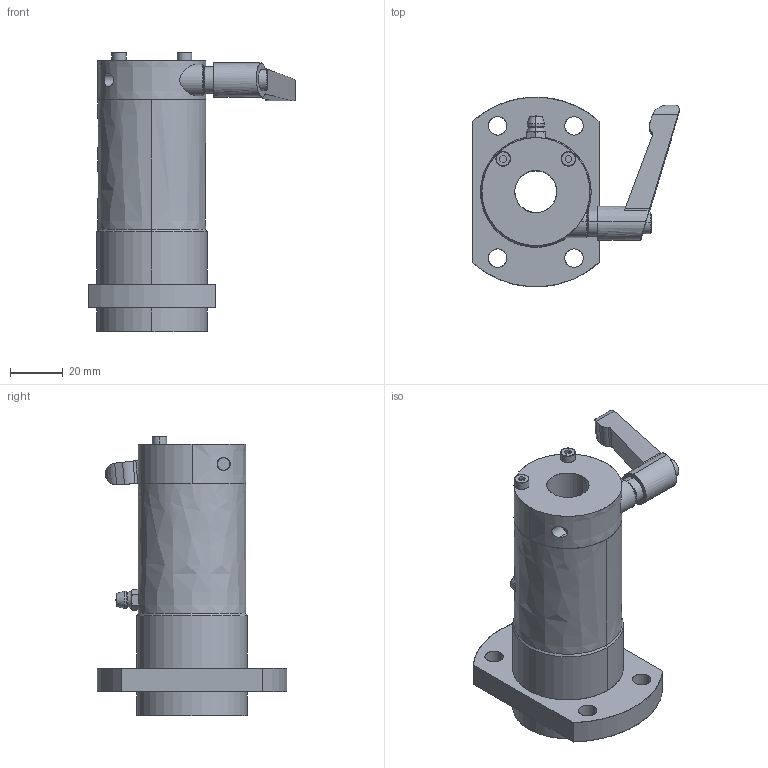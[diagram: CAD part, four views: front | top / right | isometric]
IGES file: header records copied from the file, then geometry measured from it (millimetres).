
Start section: SolidWorks IGES file using analytic representation for surfaces
Global section: file name: C:\Users\yamad\Desktop\IGES\LFWB16-CS.IGS; native system: SolidWorks 2019; preprocessor: SolidWorks 2019; author: yamad; date: 230626.171807; units: millimetre
Bounding box: 78.5 x 72 x 106 mm (x, y, z)
Surface area: 36350.4 mm2 (no closed solid volume)
Topology: 0 solids, 0 shells, 234 faces, 4995 edges, 4993 vertices
Faces by surface type: bspline 123, revolution 111
